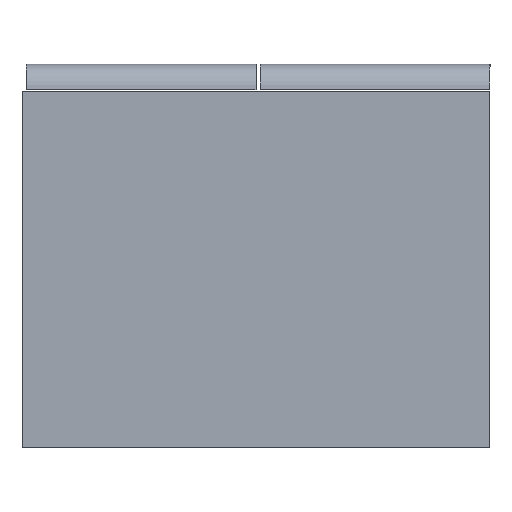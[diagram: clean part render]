
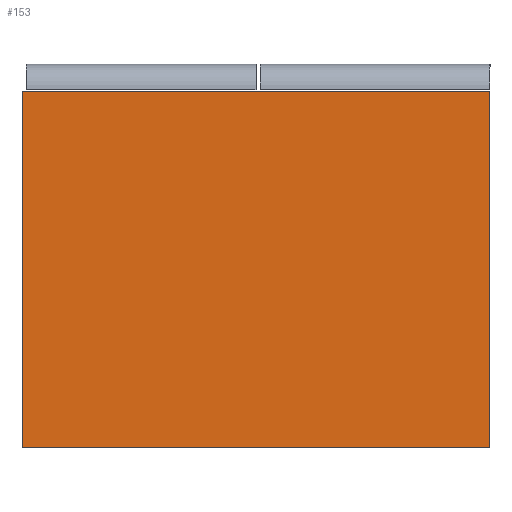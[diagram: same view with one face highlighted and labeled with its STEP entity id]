
A CAD part, left-side view. The second image highlights one B-rep face of the part: STEP entity #153.
In plain terms, the highlighted planar face has unit normal (-1, 0, 0).
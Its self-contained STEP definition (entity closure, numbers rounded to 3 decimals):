
#89 = VERTEX_POINT('',#90);
#90 = CARTESIAN_POINT('',(-597.5,275.,
    419.));
#96 = EDGE_CURVE('',#89,#97,#99,.T.);
#97 = VERTEX_POINT('',#98);
#98 = CARTESIAN_POINT('',(-597.5,-275.,
    419.));
#99 = LINE('',#100,#101);
#100 = CARTESIAN_POINT('',(-597.5,275.,
    419.));
#101 = VECTOR('',#102,1.);
#102 = DIRECTION('',(0.,-1.,0.));
#136 = VERTEX_POINT('',#137);
#137 = CARTESIAN_POINT('',(-597.5,275.,
    0.));
#143 = EDGE_CURVE('',#136,#89,#144,.T.);
#144 = LINE('',#145,#146);
#145 = CARTESIAN_POINT('',(-597.5,275.,
    419.));
#146 = VECTOR('',#147,1.);
#147 = DIRECTION('',(0.,0.,1.));
#153 = ADVANCED_FACE('',(#154),#172,.T.);
#154 = FACE_BOUND('',#155,.T.);
#155 = EDGE_LOOP('',(#156,#157,#158,#166));
#156 = ORIENTED_EDGE('',*,*,#96,.F.);
#157 = ORIENTED_EDGE('',*,*,#143,.F.);
#158 = ORIENTED_EDGE('',*,*,#159,.F.);
#159 = EDGE_CURVE('',#160,#136,#162,.T.);
#160 = VERTEX_POINT('',#161);
#161 = CARTESIAN_POINT('',(-597.5,-275.,
    0.));
#162 = LINE('',#163,#164);
#163 = CARTESIAN_POINT('',(-597.5,-275.,
    0.));
#164 = VECTOR('',#165,1.);
#165 = DIRECTION('',(0.,1.,0.));
#166 = ORIENTED_EDGE('',*,*,#167,.T.);
#167 = EDGE_CURVE('',#160,#97,#168,.T.);
#168 = LINE('',#169,#170);
#169 = CARTESIAN_POINT('',(-597.5,-275.,
    419.));
#170 = VECTOR('',#171,1.);
#171 = DIRECTION('',(0.,0.,1.));
#172 = PLANE('',#173);
#173 = AXIS2_PLACEMENT_3D('',#174,#175,#176);
#174 = CARTESIAN_POINT('',(-597.5,275.,
    419.));
#175 = DIRECTION('',(-1.,0.,0.));
#176 = DIRECTION('',(0.,0.,-1.));
